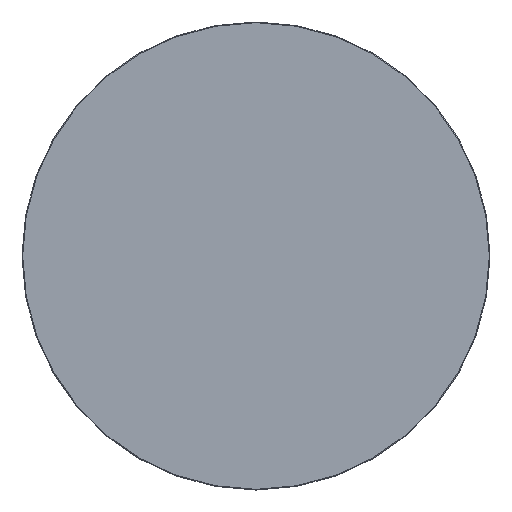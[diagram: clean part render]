
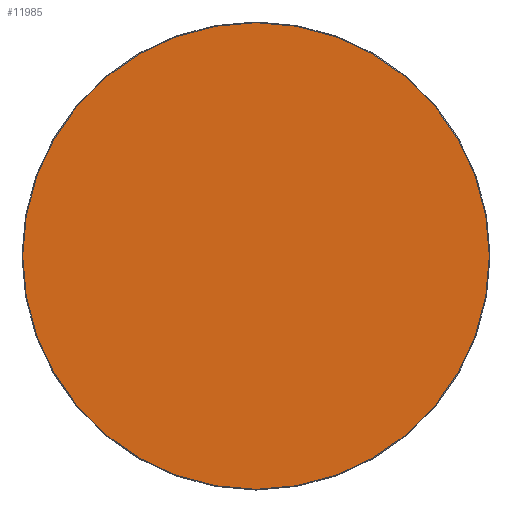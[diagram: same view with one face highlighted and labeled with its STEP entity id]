
A CAD part, top view. The second image highlights one B-rep face of the part: STEP entity #11985.
In plain terms, the highlighted planar face has unit normal (0, 0, 1).
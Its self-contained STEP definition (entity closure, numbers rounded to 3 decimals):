
#11910=CARTESIAN_POINT('',(0.,0.,20.));
#11911=DIRECTION('',(1.,0.,0.));
#11912=DIRECTION('',(0.,0.,1.));
#11913=AXIS2_PLACEMENT_3D('',#11910,#11912,#11911);
#11914=PLANE('',#11913);
#11915=CARTESIAN_POINT('',(-0.5,-498.5,20.));
#11916=VERTEX_POINT('',#11915);
#11917=CARTESIAN_POINT('',(0.5,-498.5,20.));
#11918=VERTEX_POINT('',#11917);
#11919=CARTESIAN_POINT('',(-0.5,-498.5,20.));
#11920=DIRECTION('',(1.,0.,0.));
#11921=VECTOR('',#11920,1.);
#11922=LINE('',#11919,#11921);
#11923=EDGE_CURVE('',#11916,#11918,#11922,.T.);
#11924=ORIENTED_EDGE('E105',*,*,#11923,.T.);
#11925=CARTESIAN_POINT('',(498.5,-0.5,20.));
#11926=VERTEX_POINT('',#11925);
#11927=CARTESIAN_POINT('',(0.5,-0.5,20.));
#11928=DIRECTION('',(0.,-1.,0.));
#11929=DIRECTION('',(0.,-0.,1.));
#11930=AXIS2_PLACEMENT_3D('',#11927,#11929,#11928);
#11931=CIRCLE('',#11930,498.);
#11932=EDGE_CURVE('',#11918,#11926,#11931,.T.);
#11933=ORIENTED_EDGE('E107',*,*,#11932,.T.);
#11934=CARTESIAN_POINT('',(498.5,0.5,20.));
#11935=VERTEX_POINT('',#11934);
#11936=CARTESIAN_POINT('',(498.5,-0.5,20.));
#11937=DIRECTION('',(0.,1.,0.));
#11938=VECTOR('',#11937,1.);
#11939=LINE('',#11936,#11938);
#11940=EDGE_CURVE('',#11926,#11935,#11939,.T.);
#11941=ORIENTED_EDGE('E109',*,*,#11940,.T.);
#11942=CARTESIAN_POINT('',(0.5,498.5,20.));
#11943=VERTEX_POINT('',#11942);
#11944=CARTESIAN_POINT('',(0.5,0.5,20.));
#11945=DIRECTION('',(1.,0.,0.));
#11946=DIRECTION('',(0.,0.,1.));
#11947=AXIS2_PLACEMENT_3D('',#11944,#11946,#11945);
#11948=CIRCLE('',#11947,498.);
#11949=EDGE_CURVE('',#11935,#11943,#11948,.T.);
#11950=ORIENTED_EDGE('E111',*,*,#11949,.T.);
#11951=CARTESIAN_POINT('',(-0.5,498.5,20.));
#11952=VERTEX_POINT('',#11951);
#11953=CARTESIAN_POINT('',(0.5,498.5,20.));
#11954=DIRECTION('',(-1.,0.,0.));
#11955=VECTOR('',#11954,1.);
#11956=LINE('',#11953,#11955);
#11957=EDGE_CURVE('',#11943,#11952,#11956,.T.);
#11958=ORIENTED_EDGE('E113',*,*,#11957,.T.);
#11959=CARTESIAN_POINT('',(-498.5,0.5,20.));
#11960=VERTEX_POINT('',#11959);
#11961=CARTESIAN_POINT('',(-0.5,0.5,20.));
#11962=DIRECTION('',(0.,1.,0.));
#11963=DIRECTION('',(0.,0.,1.));
#11964=AXIS2_PLACEMENT_3D('',#11961,#11963,#11962);
#11965=CIRCLE('',#11964,498.);
#11966=EDGE_CURVE('',#11952,#11960,#11965,.T.);
#11967=ORIENTED_EDGE('E115',*,*,#11966,.T.);
#11968=CARTESIAN_POINT('',(-498.5,-0.5,20.));
#11969=VERTEX_POINT('',#11968);
#11970=CARTESIAN_POINT('',(-498.5,0.5,20.));
#11971=DIRECTION('',(0.,-1.,0.));
#11972=VECTOR('',#11971,1.);
#11973=LINE('',#11970,#11972);
#11974=EDGE_CURVE('',#11960,#11969,#11973,.T.);
#11975=ORIENTED_EDGE('E117',*,*,#11974,.T.);
#11976=CARTESIAN_POINT('',(-0.5,-0.5,20.));
#11977=DIRECTION('',(-1.,0.,0.));
#11978=DIRECTION('',(-0.,0.,1.));
#11979=AXIS2_PLACEMENT_3D('',#11976,#11978,#11977);
#11980=CIRCLE('',#11979,498.);
#11981=EDGE_CURVE('',#11969,#11916,#11980,.T.);
#11982=ORIENTED_EDGE('E119',*,*,#11981,.T.);
#11983=EDGE_LOOP('',(#11924,#11933,#11941,#11950,#11958,#11967,#11975,#11982));
#11984=FACE_OUTER_BOUND('',#11983,.T.);
#11985=ADVANCED_FACE('F2',(#11984),#11914,.T.);
